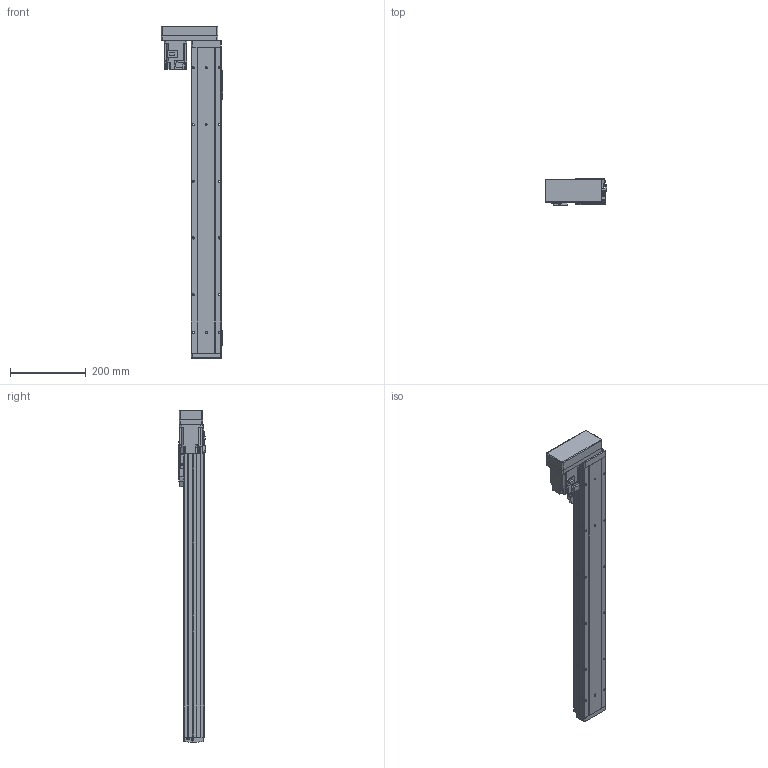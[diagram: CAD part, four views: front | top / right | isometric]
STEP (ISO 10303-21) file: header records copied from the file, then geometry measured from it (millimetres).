
FILE_DESCRIPTION (( 'STEP AP214' ), '1' );
FILE_NAME ('GSH8-650-BR-M20-1.step', '2025-01-07T06:10:47', ( '' ), ( '' ), 'SwSTEP 2.0', 'SolidWorks 2012', '' );
FILE_SCHEMA (( 'AUTOMOTIVE_DESIGN' ));
Length unit declared in the file: millimetre
Products named in the file (5): GSH8-BL-011-650-M20; GSH8-650-BR-M20-1; GSH8-BL-008; HG-KR23_200W_Motor; GSH8-GY-004
Assembly tree (4 placements, depth 2):
  GSH8-650-BR-M20-1
    GSH8-BL-011-650-M20
    GSH8-GY-004
    GSH8-BL-008
    HG-KR23_200W_Motor
Bounding box: 163 x 71.3 x 878.2 mm (x, y, z)
Volume: 2165512.7 mm3; surface area: 538411.7 mm2
Topology: 4 solids, 8 shells, 1127 faces, 2957 edges, 1903 vertices
Faces by surface type: plane 636, cylinder 395, torus 42, cone 26, bspline 24, sphere 4
Entity records: 45369 total; most frequent: CARTESIAN_POINT 11240, DIRECTION 6005, ORIENTED_EDGE 5898, EDGE_CURVE 2949, AXIS2_PLACEMENT_3D 2024, LINE 1957, VECTOR 1957, VERTEX_POINT 1899
